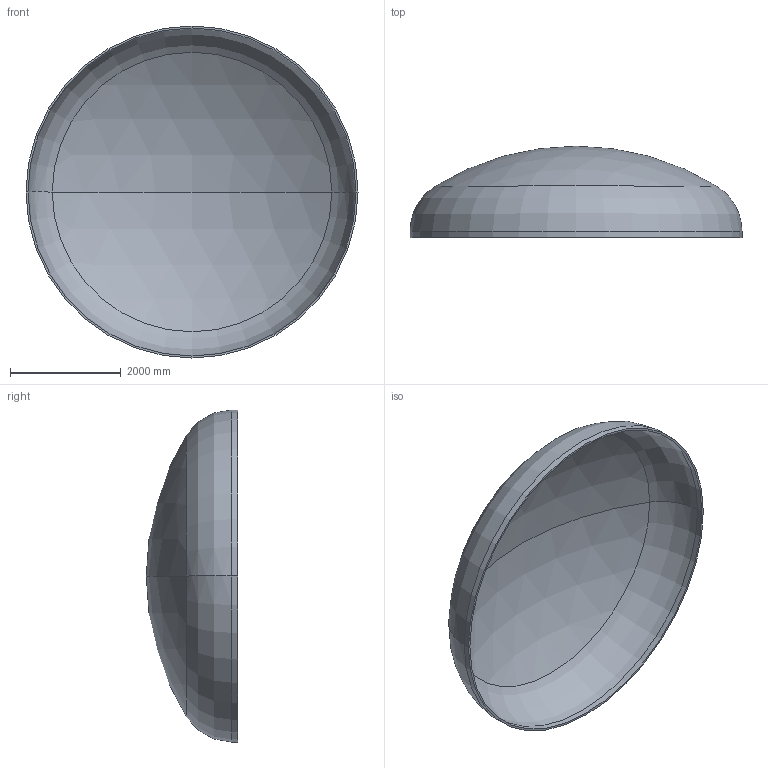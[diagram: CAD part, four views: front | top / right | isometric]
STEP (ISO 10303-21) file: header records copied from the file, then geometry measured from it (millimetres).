
FILE_DESCRIPTION (( 'STEP AP203' ), '1' );
FILE_NAME ('DIN 28013 Korbbogenform_-_Boden DIN 28013 - 6000 x 110 - I - s=36.step', '2016-07-04T10:36:44', ( '' ), ( '' ), 'SwSTEP 2.0', 'SolidWorks 2013', '' );
FILE_SCHEMA (( 'CONFIG_CONTROL_DESIGN' ));
Length unit declared in the file: millimetre
Products named in the file (1): DIN 28013 Korbbogenform_-_Boden DIN 28013 - 6000 x 110 - I - s=36
Bounding box: 6000 x 1650.84 x 6000 mm (x, y, z)
Volume: 1473128075.8 mm3; surface area: 82517643.6 mm2
Topology: 1 solids, 1 shells, 13 faces, 24 edges, 14 vertices
Faces by surface type: torus 4, cylinder 4, sphere 4, plane 1
Entity records: 407 total; most frequent: DIRECTION 72, CARTESIAN_POINT 52, ORIENTED_EDGE 48, AXIS2_PLACEMENT_3D 34, EDGE_CURVE 24, CIRCLE 20, VERTEX_POINT 14, EDGE_LOOP 14
